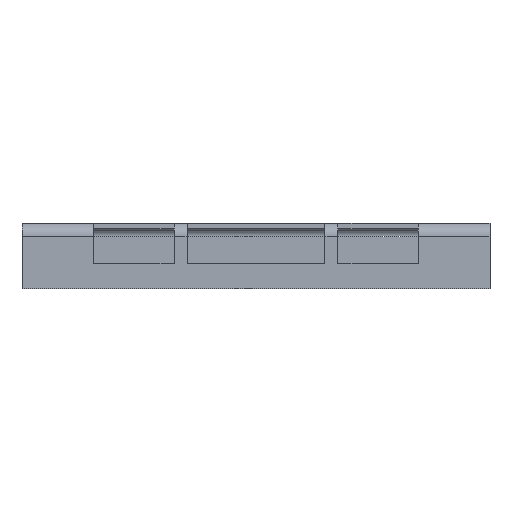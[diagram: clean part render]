
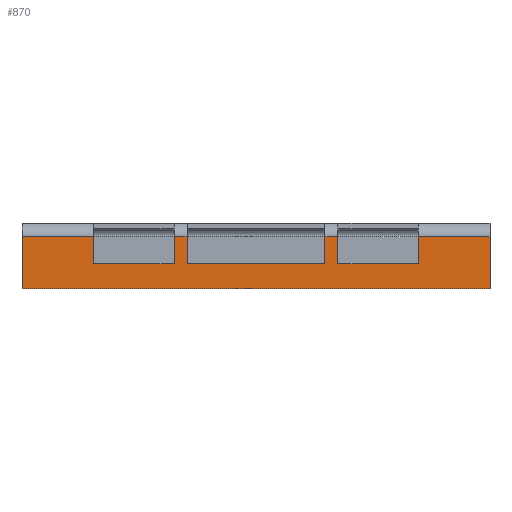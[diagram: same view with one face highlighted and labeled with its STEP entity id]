
A CAD part, left-side view. The second image highlights one B-rep face of the part: STEP entity #870.
In plain terms, the highlighted planar face has unit normal (-1, 0, 0).
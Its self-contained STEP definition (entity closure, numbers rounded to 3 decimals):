
#353 = VERTEX_POINT ( 'NONE', #1717 ) ;
#355 = EDGE_CURVE ( 'NONE', #356, #353, #1716, .T. ) ;
#356 = VERTEX_POINT ( 'NONE', #1712 ) ;
#795 = VERTEX_POINT ( 'NONE', #2398 ) ;
#799 = EDGE_CURVE ( 'NONE', #795, #356, #2391, .T. ) ;
#837 = EDGE_CURVE ( 'NONE', #840, #923, #2445, .T. ) ;
#838 = ORIENTED_EDGE ( 'NONE', *, *, #837, .T. ) ;
#839 = EDGE_CURVE ( 'NONE', #840, #865, #2441, .T. ) ;
#840 = VERTEX_POINT ( 'NONE', #2500 ) ;
#841 = VERTEX_POINT ( 'NONE', #2499 ) ;
#842 = ORIENTED_EDGE ( 'NONE', *, *, #843, .T. ) ;
#843 = EDGE_CURVE ( 'NONE', #867, #844, #2498, .T. ) ;
#844 = VERTEX_POINT ( 'NONE', #2494 ) ;
#845 = ORIENTED_EDGE ( 'NONE', *, *, #846, .F. ) ;
#846 = EDGE_CURVE ( 'NONE', #847, #844, #2493, .T. ) ;
#847 = VERTEX_POINT ( 'NONE', #2489 ) ;
#848 = ORIENTED_EDGE ( 'NONE', *, *, #849, .F. ) ;
#849 = EDGE_CURVE ( 'NONE', #850, #847, #2488, .T. ) ;
#850 = VERTEX_POINT ( 'NONE', #2484 ) ;
#851 = ORIENTED_EDGE ( 'NONE', *, *, #854, .T. ) ;
#852 = VERTEX_POINT ( 'NONE', #2483 ) ;
#853 = EDGE_CURVE ( 'NONE', #841, #852, #2482, .T. ) ;
#854 = EDGE_CURVE ( 'NONE', #850, #795, #2478, .T. ) ;
#855 = ORIENTED_EDGE ( 'NONE', *, *, #799, .T. ) ;
#856 = ORIENTED_EDGE ( 'NONE', *, *, #355, .T. ) ;
#857 = ORIENTED_EDGE ( 'NONE', *, *, #858, .T. ) ;
#858 = EDGE_CURVE ( 'NONE', #353, #859, #2473, .T. ) ;
#859 = VERTEX_POINT ( 'NONE', #2469 ) ;
#860 = ORIENTED_EDGE ( 'NONE', *, *, #861, .F. ) ;
#861 = EDGE_CURVE ( 'NONE', #862, #859, #2474, .T. ) ;
#862 = VERTEX_POINT ( 'NONE', #2527 ) ;
#863 = ORIENTED_EDGE ( 'NONE', *, *, #864, .F. ) ;
#864 = EDGE_CURVE ( 'NONE', #865, #862, #2526, .T. ) ;
#865 = VERTEX_POINT ( 'NONE', #2522 ) ;
#866 = ORIENTED_EDGE ( 'NONE', *, *, #839, .F. ) ;
#867 = VERTEX_POINT ( 'NONE', #2521 ) ;
#868 = ORIENTED_EDGE ( 'NONE', *, *, #869, .T. ) ;
#869 = EDGE_CURVE ( 'NONE', #852, #867, #2520, .T. ) ;
#870 = ADVANCED_FACE ( 'NONE', ( #2516 ), #2515, .F. ) ;
#871 = EDGE_LOOP ( 'NONE', ( #872, #868, #842, #845, #848, #851, #855, #856, #857, #860, #863, #866, #838, #921, #916, #917 ) ) ;
#872 = ORIENTED_EDGE ( 'NONE', *, *, #853, .T. ) ;
#915 = VERTEX_POINT ( 'NONE', #2590 ) ;
#916 = ORIENTED_EDGE ( 'NONE', *, *, #919, .F. ) ;
#917 = ORIENTED_EDGE ( 'NONE', *, *, #918, .F. ) ;
#918 = EDGE_CURVE ( 'NONE', #841, #915, #2589, .T. ) ;
#919 = EDGE_CURVE ( 'NONE', #915, #920, #2585, .T. ) ;
#920 = VERTEX_POINT ( 'NONE', #2581 ) ;
#921 = ORIENTED_EDGE ( 'NONE', *, *, #922, .T. ) ;
#922 = EDGE_CURVE ( 'NONE', #923, #920, #2580, .T. ) ;
#923 = VERTEX_POINT ( 'NONE', #2576 ) ;
#1712 = CARTESIAN_POINT ( 'NONE',  ( -13., 36., 8. ) ) ;
#1713 = DIRECTION ( 'NONE',  ( 0., 0., -1. ) ) ;
#1714 = VECTOR ( 'NONE', #1713, 1000. ) ;
#1715 = CARTESIAN_POINT ( 'NONE',  ( -13., 36., 10. ) ) ;
#1716 = LINE ( 'NONE', #1715, #1714 ) ;
#1717 = CARTESIAN_POINT ( 'NONE',  ( -13., 36., 0. ) ) ;
#2388 = DIRECTION ( 'NONE',  ( 0., 1., 0. ) ) ;
#2389 = VECTOR ( 'NONE', #2388, 1000. ) ;
#2390 = CARTESIAN_POINT ( 'NONE',  ( -13., 36., 8. ) ) ;
#2391 = LINE ( 'NONE', #2390, #2389 ) ;
#2398 = CARTESIAN_POINT ( 'NONE',  ( -13., 25., 8. ) ) ;
#2438 = DIRECTION ( 'NONE',  ( 0., 0., 1. ) ) ;
#2439 = VECTOR ( 'NONE', #2438, 1000. ) ;
#2440 = CARTESIAN_POINT ( 'NONE',  ( -13., -25., 3.8 ) ) ;
#2441 = LINE ( 'NONE', #2440, #2439 ) ;
#2442 = DIRECTION ( 'NONE',  ( 0., 1., 0. ) ) ;
#2443 = VECTOR ( 'NONE', #2442, 1000. ) ;
#2444 = CARTESIAN_POINT ( 'NONE',  ( -13., -25., 3.8 ) ) ;
#2445 = LINE ( 'NONE', #2444, #2443 ) ;
#2469 = CARTESIAN_POINT ( 'NONE',  ( -13., -36., 0. ) ) ;
#2470 = DIRECTION ( 'NONE',  ( 0., -1., 0. ) ) ;
#2471 = VECTOR ( 'NONE', #2470, 1000. ) ;
#2472 = CARTESIAN_POINT ( 'NONE',  ( -13., 36., 0. ) ) ;
#2473 = LINE ( 'NONE', #2472, #2471 ) ;
#2474 = LINE ( 'NONE', #2530, #2529 ) ;
#2475 = DIRECTION ( 'NONE',  ( 0., 0., 1. ) ) ;
#2476 = VECTOR ( 'NONE', #2475, 1000. ) ;
#2477 = CARTESIAN_POINT ( 'NONE',  ( -13., 25., 3.8 ) ) ;
#2478 = LINE ( 'NONE', #2477, #2476 ) ;
#2479 = DIRECTION ( 'NONE',  ( 0., 1., 0. ) ) ;
#2480 = VECTOR ( 'NONE', #2479, 1000. ) ;
#2481 = CARTESIAN_POINT ( 'NONE',  ( -13., 10.6, 3.8 ) ) ;
#2482 = LINE ( 'NONE', #2481, #2480 ) ;
#2483 = CARTESIAN_POINT ( 'NONE',  ( -13., 10.6, 3.8 ) ) ;
#2484 = CARTESIAN_POINT ( 'NONE',  ( -13., 25., 3.8 ) ) ;
#2485 = DIRECTION ( 'NONE',  ( 0., -1., 0. ) ) ;
#2486 = VECTOR ( 'NONE', #2485, 1000. ) ;
#2487 = CARTESIAN_POINT ( 'NONE',  ( -13., 25., 3.8 ) ) ;
#2488 = LINE ( 'NONE', #2487, #2486 ) ;
#2489 = CARTESIAN_POINT ( 'NONE',  ( -13., 12.6, 3.8 ) ) ;
#2490 = DIRECTION ( 'NONE',  ( 0., 0., 1. ) ) ;
#2491 = VECTOR ( 'NONE', #2490, 1000. ) ;
#2492 = CARTESIAN_POINT ( 'NONE',  ( -13., 12.6, 3.8 ) ) ;
#2493 = LINE ( 'NONE', #2492, #2491 ) ;
#2494 = CARTESIAN_POINT ( 'NONE',  ( -13., 12.6, 8. ) ) ;
#2495 = DIRECTION ( 'NONE',  ( 0., 1., 0. ) ) ;
#2496 = VECTOR ( 'NONE', #2495, 1000. ) ;
#2497 = CARTESIAN_POINT ( 'NONE',  ( -13., 36., 8. ) ) ;
#2498 = LINE ( 'NONE', #2497, #2496 ) ;
#2499 = CARTESIAN_POINT ( 'NONE',  ( -13., -10.6, 3.8 ) ) ;
#2500 = CARTESIAN_POINT ( 'NONE',  ( -13., -25., 3.8 ) ) ;
#2511 = DIRECTION ( 'NONE',  ( 0., 1., 0. ) ) ;
#2512 = DIRECTION ( 'NONE',  ( 1., 0., 0. ) ) ;
#2513 = CARTESIAN_POINT ( 'NONE',  ( -13., 36., 10. ) ) ;
#2514 = AXIS2_PLACEMENT_3D ( 'NONE', #2513, #2512, #2511 ) ;
#2515 = PLANE ( 'NONE',  #2514 ) ;
#2516 = FACE_OUTER_BOUND ( 'NONE', #871, .T. ) ;
#2517 = DIRECTION ( 'NONE',  ( 0., 0., 1. ) ) ;
#2518 = VECTOR ( 'NONE', #2517, 1000. ) ;
#2519 = CARTESIAN_POINT ( 'NONE',  ( -13., 10.6, -8.38 ) ) ;
#2520 = LINE ( 'NONE', #2519, #2518 ) ;
#2521 = CARTESIAN_POINT ( 'NONE',  ( -13., 10.6, 8. ) ) ;
#2522 = CARTESIAN_POINT ( 'NONE',  ( -13., -25., 8. ) ) ;
#2523 = DIRECTION ( 'NONE',  ( 0., -1., 0. ) ) ;
#2524 = VECTOR ( 'NONE', #2523, 1000. ) ;
#2525 = CARTESIAN_POINT ( 'NONE',  ( -13., -36., 8. ) ) ;
#2526 = LINE ( 'NONE', #2525, #2524 ) ;
#2527 = CARTESIAN_POINT ( 'NONE',  ( -13., -36., 8. ) ) ;
#2528 = DIRECTION ( 'NONE',  ( 0., 0., -1. ) ) ;
#2529 = VECTOR ( 'NONE', #2528, 1000. ) ;
#2530 = CARTESIAN_POINT ( 'NONE',  ( -13., -36., 10. ) ) ;
#2576 = CARTESIAN_POINT ( 'NONE',  ( -13., -12.6, 3.8 ) ) ;
#2577 = DIRECTION ( 'NONE',  ( 0., 0., 1. ) ) ;
#2578 = VECTOR ( 'NONE', #2577, 1000. ) ;
#2579 = CARTESIAN_POINT ( 'NONE',  ( -13., -12.6, 3.8 ) ) ;
#2580 = LINE ( 'NONE', #2579, #2578 ) ;
#2581 = CARTESIAN_POINT ( 'NONE',  ( -13., -12.6, 8. ) ) ;
#2582 = DIRECTION ( 'NONE',  ( 0., -1., 0. ) ) ;
#2583 = VECTOR ( 'NONE', #2582, 1000. ) ;
#2584 = CARTESIAN_POINT ( 'NONE',  ( -13., -36., 8. ) ) ;
#2585 = LINE ( 'NONE', #2584, #2583 ) ;
#2586 = DIRECTION ( 'NONE',  ( 0., 0., 1. ) ) ;
#2587 = VECTOR ( 'NONE', #2586, 1000. ) ;
#2588 = CARTESIAN_POINT ( 'NONE',  ( -13., -10.6, -8.38 ) ) ;
#2589 = LINE ( 'NONE', #2588, #2587 ) ;
#2590 = CARTESIAN_POINT ( 'NONE',  ( -13., -10.6, 8. ) ) ;
